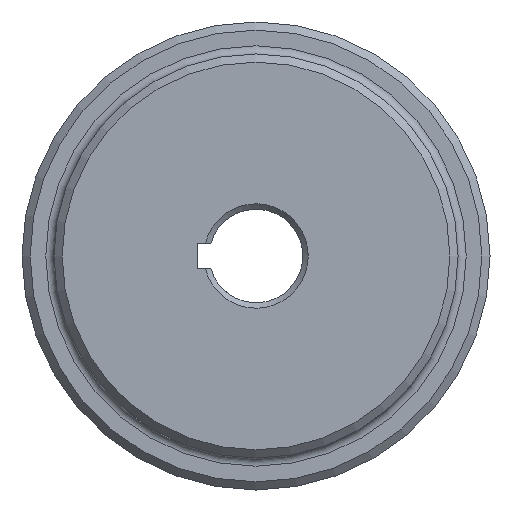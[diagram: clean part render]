
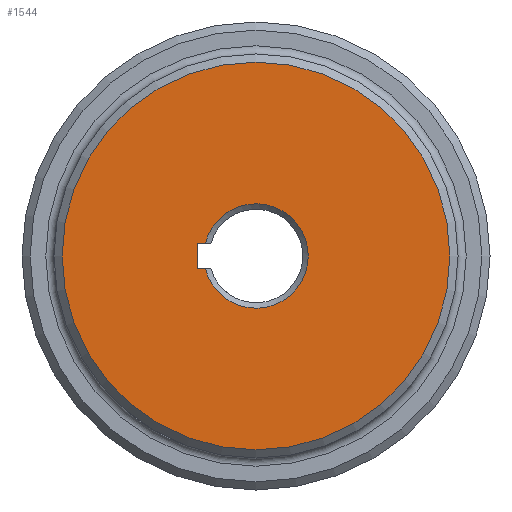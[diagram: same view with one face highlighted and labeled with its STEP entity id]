
A CAD part, left-side view. The second image highlights one B-rep face of the part: STEP entity #1544.
In plain terms, the highlighted planar face has unit normal (-1, 0, 0).
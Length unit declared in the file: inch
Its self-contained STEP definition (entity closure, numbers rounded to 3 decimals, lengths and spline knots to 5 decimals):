
#26 = CARTESIAN_POINT ( 'NONE',  ( 0., 0., 0. ) ) ;
#34 = CIRCLE ( 'NONE', #2301, 0.3839 ) ;
#71 = DIRECTION ( 'NONE',  ( 0., 1., 0. ) ) ;
#153 = VERTEX_POINT ( 'NONE', #601 ) ;
#198 = CARTESIAN_POINT ( 'NONE',  ( 0., 0.37234, 0.0935 ) ) ;
#235 = ORIENTED_EDGE ( 'NONE', *, *, #1181, .T. ) ;
#284 = DIRECTION ( 'NONE',  ( 0., 0., -1. ) ) ;
#297 = CARTESIAN_POINT ( 'NONE',  ( 0., 0.4301, -0.0935 ) ) ;
#368 = LINE ( 'NONE', #659, #1361 ) ;
#414 = EDGE_CURVE ( 'NONE', #1896, #1247, #1665, .T. ) ;
#544 = ORIENTED_EDGE ( 'NONE', *, *, #2162, .T. ) ;
#601 = CARTESIAN_POINT ( 'NONE',  ( 0., 0.37234, -0.0935 ) ) ;
#621 = DIRECTION ( 'NONE',  ( 0., 0., -1. ) ) ;
#623 = AXIS2_PLACEMENT_3D ( 'NONE', #26, #2135, #284 ) ;
#627 = LINE ( 'NONE', #2351, #1125 ) ;
#628 = EDGE_CURVE ( 'NONE', #1247, #730, #368, .T. ) ;
#659 = CARTESIAN_POINT ( 'NONE',  ( 0., 0.4301, -0.0935 ) ) ;
#700 = FACE_BOUND ( 'NONE', #1878, .T. ) ;
#730 = VERTEX_POINT ( 'NONE', #297 ) ;
#800 = ORIENTED_EDGE ( 'NONE', *, *, #833, .F. ) ;
#833 = EDGE_CURVE ( 'NONE', #730, #153, #627, .T. ) ;
#1017 = ORIENTED_EDGE ( 'NONE', *, *, #414, .F. ) ;
#1087 = CARTESIAN_POINT ( 'NONE',  ( 0., 0., 0. ) ) ;
#1090 = ORIENTED_EDGE ( 'NONE', *, *, #628, .F. ) ;
#1125 = VECTOR ( 'NONE', #1489, 39.37008 ) ;
#1181 = EDGE_CURVE ( 'NONE', #2343, #2343, #2161, .T. ) ;
#1247 = VERTEX_POINT ( 'NONE', #1788 ) ;
#1318 = CARTESIAN_POINT ( 'NONE',  ( 0., 0., 0. ) ) ;
#1349 = AXIS2_PLACEMENT_3D ( 'NONE', #1318, #1629, #1706 ) ;
#1361 = VECTOR ( 'NONE', #621, 39.37008 ) ;
#1387 = CARTESIAN_POINT ( 'NONE',  ( 0., 0., 0.0935 ) ) ;
#1489 = DIRECTION ( 'NONE',  ( 0., -1., 0. ) ) ;
#1544 = ADVANCED_FACE ( 'NONE', ( #2357, #700 ), #1774, .F. ) ;
#1629 = DIRECTION ( 'NONE',  ( -1., 0., 0. ) ) ;
#1665 = LINE ( 'NONE', #1387, #1692 ) ;
#1670 = DIRECTION ( 'NONE',  ( 1., 0., 0. ) ) ;
#1692 = VECTOR ( 'NONE', #71, 39.37008 ) ;
#1706 = DIRECTION ( 'NONE',  ( 0., 0., -1. ) ) ;
#1723 = EDGE_LOOP ( 'NONE', ( #235 ) ) ;
#1759 = CARTESIAN_POINT ( 'NONE',  ( 0., 0., -1.425 ) ) ;
#1774 = PLANE ( 'NONE',  #623 ) ;
#1788 = CARTESIAN_POINT ( 'NONE',  ( 0., 0.4301, 0.0935 ) ) ;
#1878 = EDGE_LOOP ( 'NONE', ( #1017, #544, #800, #1090 ) ) ;
#1896 = VERTEX_POINT ( 'NONE', #198 ) ;
#2135 = DIRECTION ( 'NONE',  ( 1., 0., 0. ) ) ;
#2161 = CIRCLE ( 'NONE', #1349, 1.425 ) ;
#2162 = EDGE_CURVE ( 'NONE', #1896, #153, #34, .T. ) ;
#2301 = AXIS2_PLACEMENT_3D ( 'NONE', #1087, #1670, #2327 ) ;
#2327 = DIRECTION ( 'NONE',  ( 0., 0., -1. ) ) ;
#2343 = VERTEX_POINT ( 'NONE', #1759 ) ;
#2351 = CARTESIAN_POINT ( 'NONE',  ( 0., 0., -0.0935 ) ) ;
#2357 = FACE_OUTER_BOUND ( 'NONE', #1723, .T. ) ;
